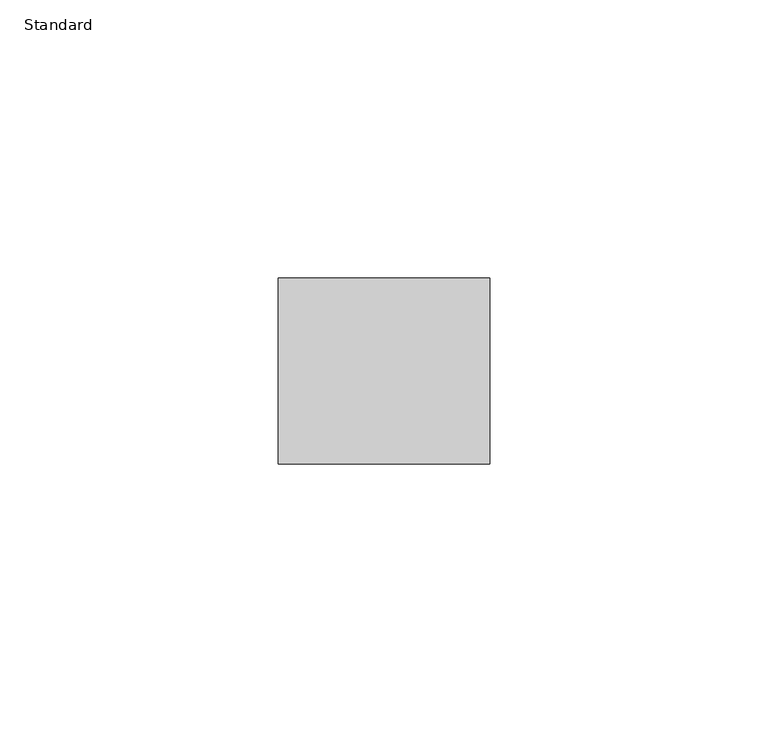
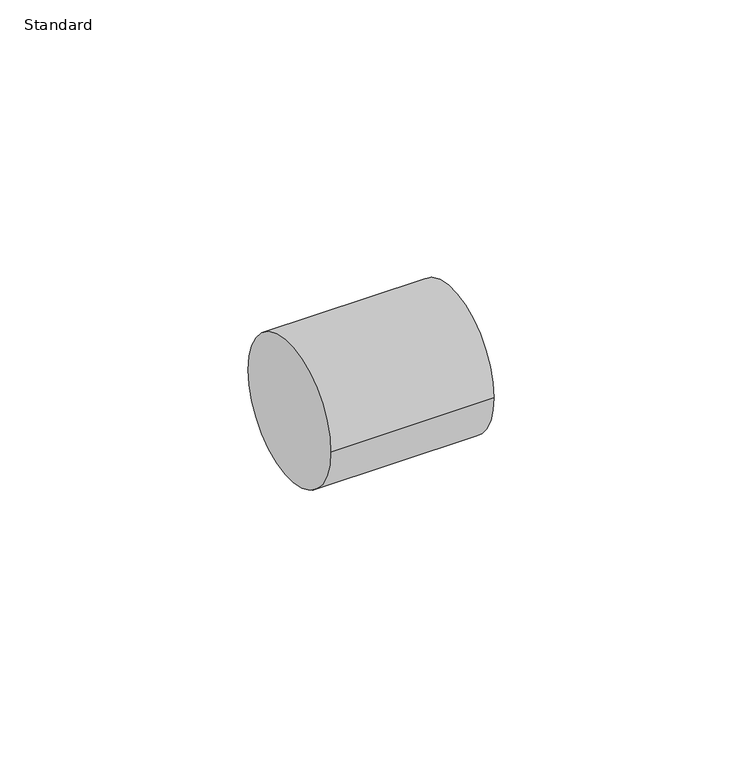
"""IFC4 building model written with IfcOpenShell, lengths in millimetres: pipe fitting geometry, Cap_Lubrizol_CPVC_FlowGuard_MX : Standard."""

from ifc_helpers import new_model, si_unit, point, frame, origin, origin_2d, place, context, project, spatial, circle_curve, trimmed, segment, composite_curve, outline, extrude, source, transform, mapped, element, save


def standard_1abcddf5(model_context):
    return source(origin(), model_context, "Body", "SweptSolid", [
        extrude(outline(composite_curve([segment(trimmed(circle_curve(origin_2d(), 16.7), [point((-16.7, 0.0))], [point((16.7, 0.0))], False, "CARTESIAN"), True, "CONTINUOUS"), segment(trimmed(circle_curve(origin_2d(), 16.7), [point((16.7, 0.0))], [point((-16.7, 0.0))], False, "CARTESIAN"), True, "CONTINUOUS")], self_intersect=False)), frame((0.0, 0.0, 0.0), z_axis=(1.0, 0.0, 0.0), x_axis=(0.0, 1.0, 0.0)), (0.0, 0.0, 1.0), 38.0),
    ])


if __name__ == "__main__":
    model = new_model("IFC4")
    model_context = context("Model", 3, world=origin())
    ifc_project = project(units=[si_unit("LENGTHUNIT", "METRE", prefix="MILLI")], contexts=[model_context])
    site = spatial("IfcSite", under=ifc_project)
    building = spatial("IfcBuilding", under=site)
    placement = place(None, origin())
    standard_shape = standard_1abcddf5(model_context)
    element("IfcPipeFitting", 1, ObjectType="Cap_Lubrizol_CPVC_FlowGuard_MX : Standard", at=placement, inside=building, context=model_context, shape_type="MappedRepresentation", body=[
        mapped(standard_shape, transform((0.0, 0.0, 0.0), x_axis=(1.0, 0.0, 0.0), y_axis=(0.0, 1.0, 0.0), z_axis=(0.0, 0.0, 1.0))),
    ])
    save(model, "model.ifc")
